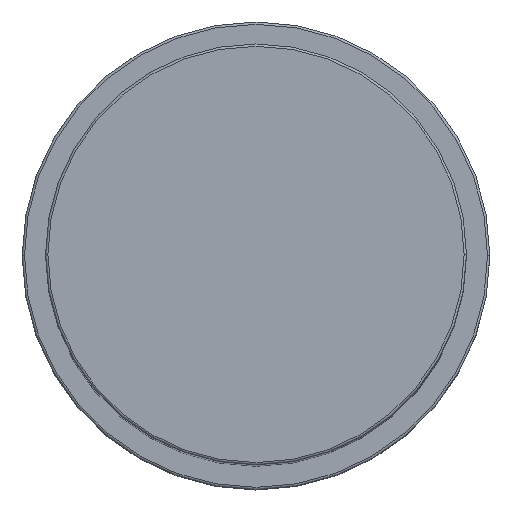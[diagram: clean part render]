
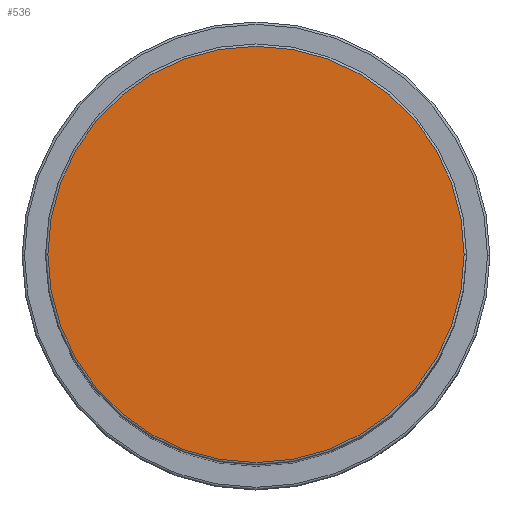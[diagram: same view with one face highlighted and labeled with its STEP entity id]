
A CAD part, top view. The second image highlights one B-rep face of the part: STEP entity #536.
In plain terms, the highlighted planar face has unit normal (0, 0, 1).
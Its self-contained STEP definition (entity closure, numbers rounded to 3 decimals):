
#73 = AXIS2_PLACEMENT_3D ( 'NONE', #1636, #1036, #1825 ) ;
#228 = ORIENTED_EDGE ( 'NONE', *, *, #934, .T. ) ;
#244 = AXIS2_PLACEMENT_3D ( 'NONE', #1244, #588, #1535 ) ;
#317 = CARTESIAN_POINT ( 'NONE',  ( -44.5, 0., 194. ) ) ;
#401 = ORIENTED_EDGE ( 'NONE', *, *, #857, .T. ) ;
#536 = ADVANCED_FACE ( 'NONE', ( #2026 ), #1864, .T. ) ;
#588 = DIRECTION ( 'NONE',  ( 0., 0., 1. ) ) ;
#712 = VERTEX_POINT ( 'NONE', #1138 ) ;
#857 = EDGE_CURVE ( 'NONE', #712, #1136, #1393, .T. ) ;
#934 = EDGE_CURVE ( 'NONE', #1136, #712, #1909, .T. ) ;
#1036 = DIRECTION ( 'NONE',  ( 0., 0., 1. ) ) ;
#1092 = AXIS2_PLACEMENT_3D ( 'NONE', #2043, #1889, #1404 ) ;
#1136 = VERTEX_POINT ( 'NONE', #317 ) ;
#1138 = CARTESIAN_POINT ( 'NONE',  ( 44.5, 0., 194. ) ) ;
#1244 = CARTESIAN_POINT ( 'NONE',  ( 0., 0., 194. ) ) ;
#1393 = CIRCLE ( 'NONE', #73, 44.5 ) ;
#1404 = DIRECTION ( 'NONE',  ( 1., 0., 0. ) ) ;
#1484 = EDGE_LOOP ( 'NONE', ( #401, #228 ) ) ;
#1535 = DIRECTION ( 'NONE',  ( 1., 0., 0. ) ) ;
#1636 = CARTESIAN_POINT ( 'NONE',  ( 0., 0., 194. ) ) ;
#1825 = DIRECTION ( 'NONE',  ( 1., 0., 0. ) ) ;
#1864 = PLANE ( 'NONE',  #244 ) ;
#1889 = DIRECTION ( 'NONE',  ( 0., 0., 1. ) ) ;
#1909 = CIRCLE ( 'NONE', #1092, 44.5 ) ;
#2026 = FACE_OUTER_BOUND ( 'NONE', #1484, .T. ) ;
#2043 = CARTESIAN_POINT ( 'NONE',  ( 0., 0., 194. ) ) ;
